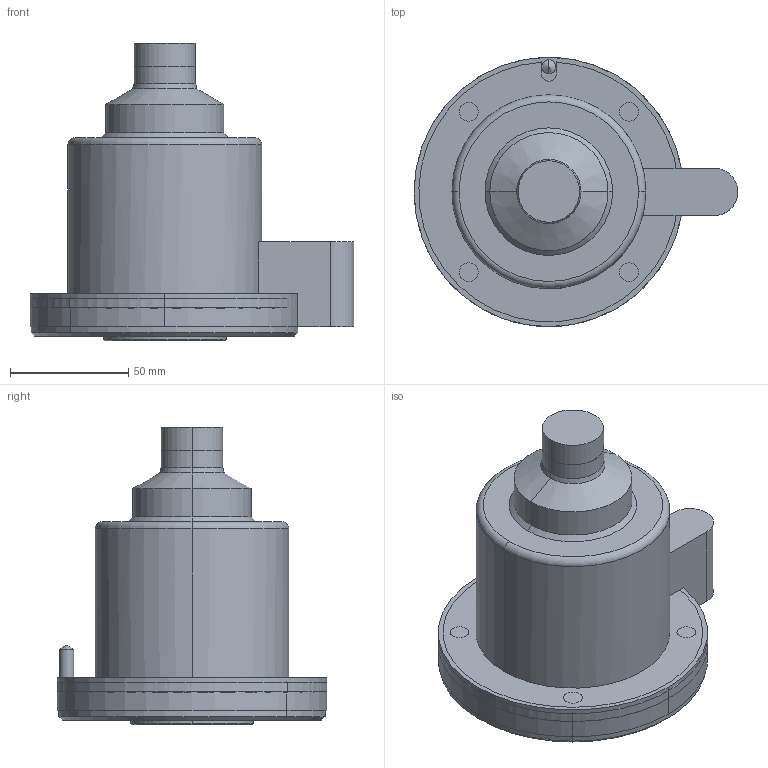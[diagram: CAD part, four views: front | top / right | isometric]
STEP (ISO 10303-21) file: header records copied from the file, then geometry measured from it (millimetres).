
FILE_DESCRIPTION (( 'STEP AP214' ), '1' );
FILE_NAME ('SR20_CLOSED_120_BAND.STEP', '2009-05-07T15:48:51', ( 'Synventive Molding Solutions' ), ( 'Synventive Molding Solutions' ), 'SwSTEP 2.0', 'SolidWorks 2008', '' );
FILE_SCHEMA (( 'AUTOMOTIVE_DESIGN' ));
Length unit declared in the file: millimetre
Products named in the file (1): SR20_CLOSED_120_BAND
Bounding box: 137 x 114 x 126 mm (x, y, z)
Volume: 911008.3 mm3; surface area: 104158.3 mm2
Topology: 3 solids, 3 shells, 271 faces, 691 edges, 436 vertices
Faces by surface type: cylinder 116, plane 94, cone 32, torus 25, sphere 2, bspline 2
Entity records: 11798 total; most frequent: CARTESIAN_POINT 2063, DIRECTION 1476, ORIENTED_EDGE 1374, EDGE_CURVE 687, AXIS2_PLACEMENT_3D 577, VERTEX_POINT 436, LINE 322, VECTOR 322
